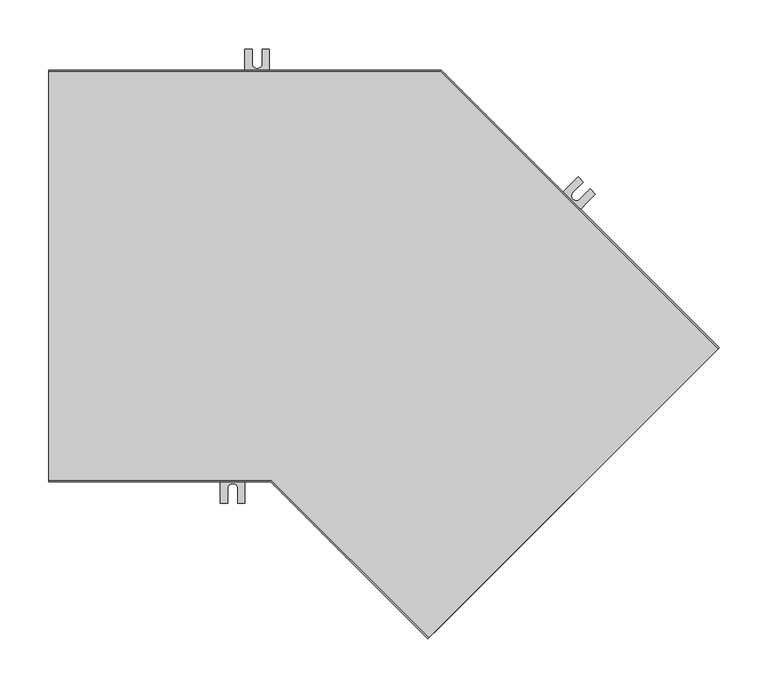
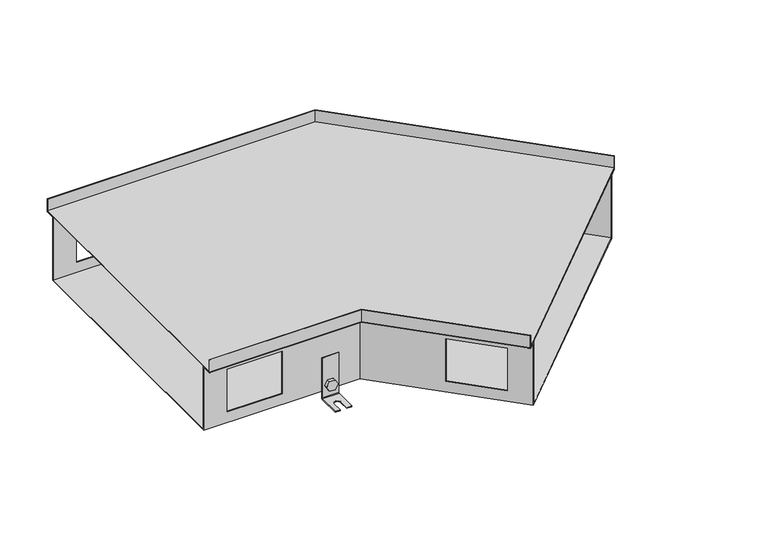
"""IFC4 building model written with IfcOpenShell, lengths in millimetres: proxy geometry, TECHNO_Угловой элемент_KVU : 420_120_135°."""

from ifc_helpers import new_model, si_unit, point, frame, frame_2d, origin, place, context, project, spatial, polyline, circle_curve, ellipse_curve, trimmed, segment, composite_curve, outline, extrude, source, transform, mapped, element, save
from ifc_brep_helpers import plane_surface, cylinder_surface, revolved_surface, advanced_brep


def mechanical_equipment_8565b647(model_context):
    return source(origin(), model_context, "Body", "SolidModel", [
        extrude(outline(composite_curve([segment(trimmed(circle_curve(frame_2d((0.0, -7.5)), 7.5), [point((0.0, -15.0))], [point((0.0, 0.0))], False, "CARTESIAN"), True, "CONTINUOUS"), segment(trimmed(circle_curve(frame_2d((0.0, -7.5)), 7.5), [point((0.0, 0.0))], [point((0.0, -15.0))], False, "CARTESIAN"), True, "CONTINUOUS")], self_intersect=False)), frame((475.0290547, -27.3050358, -110.5), z_axis=(0.7071067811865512, 0.7071067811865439, 0.0), x_axis=(0.0, 0.0, 1.0)), (0.0, 0.0, 1.0), 1.5),
        extrude(outline(polyline([(0.0, 0.0), (8.6602541, 0.0), (12.990381, -7.5), (8.660254, -15.0), (0.0, -15.0), (-4.330127, -7.5), (0.0, 0.0)])), frame((459.1472568, -20.3327833, -110.5), z_axis=(0.7071067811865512, 0.7071067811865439, 0.0), x_axis=(0.3535533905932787, -0.3535533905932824, -0.8660254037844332)), (0.0, 0.0, 1.0), 5.1),
        advanced_brep(
        [(477.7160605, -31.6890978, -65.5), (477.7160605, -31.6890978, -128.5), (477.1503751, -32.2547832, -129.3), (453.8158513, -55.589307, -129.3), (453.8158513, -55.589307, -130.5), (477.1503751, -32.2547832, -130.5), (478.5645886, -30.8405697, -128.5), (478.5645886, -30.8405697, -65.5), (460.038391, -14.0114283, -65.5), (460.8869191, -13.1629001, -65.5), (460.8869191, -13.1629001, -128.5), (459.4727056, -14.5771137, -130.5), (436.1381818, -37.9116375, -130.5), (436.1381818, -37.9116375, -129.3), (459.4727056, -14.5771137, -129.3), (460.038391, -14.0114283, -128.5), (441.4414826, -43.2149383, -129.3), (452.0480843, -32.6083366, -129.3), (459.1191522, -39.6794044, -129.3), (448.5125504, -50.2860062, -129.3), (448.5125504, -50.2860062, -130.5), (441.4414826, -43.2149383, -130.5), (459.1191522, -39.6794044, -130.5), (452.0480843, -32.6083366, -130.5)],
        [
            (0, 1),
            (1, 2, circle_curve(frame((477.1503751, -32.2547832, -128.5), z_axis=(-0.7071067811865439, 0.7071067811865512, 0.0), x_axis=(-0.7071067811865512, -0.7071067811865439, 0.0)), 0.8)),
            (2, 3),
            (3, 4),
            (4, 5),
            (5, 6, circle_curve(frame((477.1503751, -32.2547832, -128.5), z_axis=(0.7071067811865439, -0.7071067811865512, 0.0), x_axis=(-0.7071067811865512, -0.7071067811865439, 0.0)), 2.0)),
            (6, 7),
            (7, 0),
            (8, 9),
            (9, 10),
            (10, 11, circle_curve(frame((459.4727056, -14.5771137, -128.5), z_axis=(-0.7071067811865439, 0.7071067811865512, 0.0), x_axis=(-0.7071067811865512, -0.7071067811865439, 0.0)), 2.0)),
            (11, 12),
            (12, 13),
            (13, 14),
            (14, 15, circle_curve(frame((459.4727056, -14.5771137, -128.5), z_axis=(0.7071067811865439, -0.7071067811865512, 0.0), x_axis=(-0.7071067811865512, -0.7071067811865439, 0.0)), 0.8)),
            (15, 8),
            (0, 8),
            (15, 1),
            (14, 2),
            (13, 16),
            (16, 17),
            (17, 18, circle_curve(frame((455.5836183, -36.1438705, -129.3), z_axis=(0.0, 0.0, -1.0), x_axis=(0.7071067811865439, -0.7071067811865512, 0.0)), 5.0)),
            (18, 19),
            (19, 3),
            (19, 20),
            (20, 4),
            (12, 21),
            (21, 16),
            (20, 22),
            (22, 23, circle_curve(frame((455.5836183, -36.1438705, -130.5), z_axis=(0.0, 0.0, 1.0), x_axis=(0.7071067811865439, -0.7071067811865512, 0.0)), 5.0)),
            (23, 21),
            (11, 5),
            (10, 6),
            (9, 7),
            (23, 17),
            (18, 22),
        ],
        [
            plane_surface(frame((477.7160605, -31.6890978, -65.5), z_axis=(0.7071067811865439, -0.7071067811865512, 0.0), x_axis=(0.0, 0.0, -1.0))),
            plane_surface(frame((460.038391, -14.0114283, -65.5), z_axis=(-0.7071067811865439, 0.7071067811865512, 0.0), x_axis=(0.0, 0.0, 1.0))),
            plane_surface(frame((477.7160605, -31.6890978, -65.5), z_axis=(-0.7071067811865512, -0.7071067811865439, 0.0), x_axis=(-0.7071067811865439, 0.7071067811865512, 0.0))),
            revolved_surface(polyline([(458.9070201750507, -15.142799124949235, -128.5), (476.58468967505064, -32.82046862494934, -128.5)]), (459.4727056, -14.5771137, -128.5), (-0.7071067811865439, 0.7071067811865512, 0.0)),
            plane_surface(frame((477.1503751, -32.2547832, -129.3), z_axis=(0.0, 0.0, 1.0), x_axis=(-0.7071067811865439, 0.7071067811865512, 0.0))),
            plane_surface(frame((453.8158513, -55.589307, -129.3), z_axis=(-0.7071067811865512, -0.7071067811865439, 0.0), x_axis=(-0.7071067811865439, 0.7071067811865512, 0.0))),
            plane_surface(frame((453.8158513, -55.589307, -130.5), z_axis=(0.0, 0.0, -1.0), x_axis=(-0.7071067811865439, 0.7071067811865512, 0.0))),
            cylinder_surface(frame((459.4727056, -14.5771137, -128.5), z_axis=(0.7071067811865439, -0.7071067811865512, 0.0), x_axis=(-0.7071067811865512, -0.7071067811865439, 0.0)), 2.0),
            plane_surface(frame((478.5645886, -30.8405697, -128.5), z_axis=(0.7071067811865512, 0.7071067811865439, 0.0), x_axis=(-0.7071067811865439, 0.7071067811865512, 0.0))),
            plane_surface(frame((478.5645886, -30.8405697, -65.5), z_axis=(0.0, 0.0, 1.0), x_axis=(-0.7071067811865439, 0.7071067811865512, 0.0))),
            plane_surface(frame((452.0480843, -32.6083366, -129.3), z_axis=(0.7071067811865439, -0.7071067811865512, 0.0), x_axis=(0.0, 0.0, -1.0))),
            plane_surface(frame((448.5125504, -50.2860062, -129.3), z_axis=(-0.707106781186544, 0.7071067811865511, 0.0), x_axis=(0.0, 0.0, -1.0))),
            revolved_surface(polyline([(459.1191522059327, -39.67940440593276, -129.3), (459.1191522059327, -39.67940440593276, -130.5)]), (455.5836183, -36.1438705, -130.5), (0.0, 0.0, 1.0)),
        ],
        [
            (0, [[1, 2, 3, 4, 5, 6, 7, 8]]),
            (1, [[9, 10, 11, 12, 13, 14, 15, 16]]),
            (2, [[-1, 17, -16, 18]]),
            (3, [[-2, -18, -15, 19]]),
            (4, [[-3, -19, -14, 20, 21, 22, 23, 24]]),
            (5, [[-4, -24, 25, 26]]),
            (5, [[-13, 27, 28, -20]]),
            (6, [[-5, -26, 29, 30, 31, -27, -12, 32]]),
            (7, [[-6, -32, -11, 33]]),
            (8, [[-7, -33, -10, 34]]),
            (9, [[-8, -34, -9, -17]]),
            (10, [[35, -21, -28, -31]]),
            (11, [[36, -29, -25, -23]]),
            (12, [[-35, -30, -36, -22]]),
        ],
    ),
        extrude(outline(composite_curve([segment(trimmed(circle_curve(frame_2d((0.0, -7.5)), 7.5), [point((0.0, -15.0))], [point((0.0, 0.0))], False, "CARTESIAN"), True, "CONTINUOUS"), segment(trimmed(circle_curve(frame_2d((0.0, -7.5)), 7.5), [point((0.0, 0.0))], [point((0.0, -15.0))], False, "CARTESIAN"), True, "CONTINUOUS")], self_intersect=False)), frame((517.6675936, 71.9020456, -110.5), z_axis=(0.7071067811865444, 0.7071067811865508, 0.0), x_axis=(0.0, 0.0, -1.0)), (0.0, 0.0, 1.0), 1.5),
        extrude(outline(polyline([(0.0, 0.0), (4.330127, -7.5), (0.0, -15.0000001), (-8.660254, -15.0), (-12.9903811, -7.5000001), (-8.6602541, 0.0), (0.0, 0.0)])), frame((531.0038072, 62.3842087, -110.5), z_axis=(0.7071067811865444, 0.7071067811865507, 0.0), x_axis=(0.35355339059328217, -0.35355339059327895, 0.8660254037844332)), (0.0, 0.0, 1.0), 5.1),
        advanced_brep(
        [(516.041248, 77.3467678, -65.5), (516.041248, 77.3467678, -128.5), (516.6069335, 77.9124533, -129.3), (539.9414572, 101.2469771, -129.3), (539.9414572, 101.2469771, -130.5), (516.6069335, 77.9124533, -130.5), (515.1927199, 76.4982397, -128.5), (515.1927199, 76.4982397, -65.5), (533.7189176, 59.6690983, -65.5), (532.8703894, 58.8205702, -65.5), (532.8703894, 58.8205702, -128.5), (534.284603, 60.2347837, -130.5), (557.6191268, 83.5693075, -130.5), (557.6191268, 83.5693075, -129.3), (534.284603, 60.2347837, -129.3), (533.7189176, 59.6690983, -128.5), (552.3158259, 88.8726084, -129.3), (541.7092242, 78.2660067, -129.3), (534.6381564, 85.3370745, -129.3), (545.2447581, 95.9436762, -129.3), (545.2447581, 95.9436762, -130.5), (552.3158259, 88.8726084, -130.5), (534.6381564, 85.3370745, -130.5), (541.7092242, 78.2660067, -130.5)],
        [
            (0, 1),
            (1, 2, circle_curve(frame((516.6069335, 77.9124533, -128.5), z_axis=(0.7071067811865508, -0.7071067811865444, 0.0), x_axis=(0.7071067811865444, 0.7071067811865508, 0.0)), 0.8)),
            (2, 3),
            (3, 4),
            (4, 5),
            (5, 6, circle_curve(frame((516.6069335, 77.9124533, -128.5), z_axis=(-0.7071067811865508, 0.7071067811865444, 0.0), x_axis=(0.7071067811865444, 0.7071067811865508, 0.0)), 2.0)),
            (6, 7),
            (7, 0),
            (8, 9),
            (9, 10),
            (10, 11, circle_curve(frame((534.284603, 60.2347837, -128.5), z_axis=(0.7071067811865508, -0.7071067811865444, 0.0), x_axis=(0.7071067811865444, 0.7071067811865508, 0.0)), 2.0)),
            (11, 12),
            (12, 13),
            (13, 14),
            (14, 15, circle_curve(frame((534.284603, 60.2347837, -128.5), z_axis=(-0.7071067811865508, 0.7071067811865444, 0.0), x_axis=(0.7071067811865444, 0.7071067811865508, 0.0)), 0.8)),
            (15, 8),
            (0, 8),
            (15, 1),
            (14, 2),
            (13, 16),
            (16, 17),
            (17, 18, circle_curve(frame((538.1736903, 81.8015406, -129.3), z_axis=(0.0, 0.0, -1.0), x_axis=(-0.7071067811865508, 0.7071067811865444, 0.0)), 5.0)),
            (18, 19),
            (19, 3),
            (19, 20),
            (20, 4),
            (12, 21),
            (21, 16),
            (20, 22),
            (22, 23, circle_curve(frame((538.1736903, 81.8015406, -130.5), z_axis=(0.0, 0.0, 1.0), x_axis=(-0.7071067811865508, 0.7071067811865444, 0.0)), 5.0)),
            (23, 21),
            (11, 5),
            (10, 6),
            (9, 7),
            (23, 17),
            (18, 22),
        ],
        [
            plane_surface(frame((516.041248, 77.3467678, -65.5), z_axis=(-0.7071067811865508, 0.7071067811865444, 0.0), x_axis=(0.0, 0.0, -1.0))),
            plane_surface(frame((533.7189176, 59.6690983, -65.5), z_axis=(0.7071067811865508, -0.7071067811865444, 0.0), x_axis=(0.0, 0.0, 1.0))),
            plane_surface(frame((516.041248, 77.3467678, -65.5), z_axis=(0.7071067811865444, 0.7071067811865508, 0.0), x_axis=(0.7071067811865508, -0.7071067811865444, 0.0))),
            revolved_surface(polyline([(534.8502884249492, 60.800469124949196, -128.5), (517.1726188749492, 78.47813867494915, -128.5)]), (534.284603, 60.2347837, -128.5), (0.7071067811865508, -0.7071067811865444, 0.0)),
            plane_surface(frame((516.6069335, 77.9124533, -129.3), z_axis=(0.0, 0.0, 1.0000000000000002), x_axis=(0.7071067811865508, -0.7071067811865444, 0.0))),
            plane_surface(frame((539.9414572, 101.2469771, -129.3), z_axis=(0.7071067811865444, 0.7071067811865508, 0.0), x_axis=(0.7071067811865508, -0.7071067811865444, 0.0))),
            plane_surface(frame((539.9414572, 101.2469771, -130.5), z_axis=(0.0, 0.0, -1.0000000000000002), x_axis=(0.7071067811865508, -0.7071067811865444, 0.0))),
            cylinder_surface(frame((534.284603, 60.2347837, -128.5), z_axis=(-0.7071067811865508, 0.7071067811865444, 0.0), x_axis=(0.7071067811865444, 0.7071067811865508, 0.0)), 2.0),
            plane_surface(frame((515.1927199, 76.4982397, -128.5), z_axis=(-0.7071067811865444, -0.7071067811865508, 0.0), x_axis=(0.7071067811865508, -0.7071067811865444, 0.0))),
            plane_surface(frame((515.1927199, 76.4982397, -65.5), z_axis=(0.0, 0.0, 1.0000000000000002), x_axis=(0.7071067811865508, -0.7071067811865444, 0.0))),
            plane_surface(frame((541.7092242, 78.2660067, -129.3), z_axis=(-0.7071067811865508, 0.7071067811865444, 0.0), x_axis=(0.0, 0.0, -1.0))),
            plane_surface(frame((545.2447581, 95.9436762, -129.3), z_axis=(0.7071067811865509, -0.7071067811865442, 0.0), x_axis=(0.0, 0.0, -1.0))),
            revolved_surface(polyline([(534.6381563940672, 85.33707450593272, -129.3), (534.6381563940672, 85.33707450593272, -130.5)]), (538.1736903, 81.8015406, -130.5), (0.0, 0.0, 1.0)),
        ],
        [
            (0, [[1, 2, 3, 4, 5, 6, 7, 8]]),
            (1, [[9, 10, 11, 12, 13, 14, 15, 16]]),
            (2, [[-1, 17, -16, 18]]),
            (3, [[-2, -18, -15, 19]]),
            (4, [[-3, -19, -14, 20, 21, 22, 23, 24]]),
            (5, [[-4, -24, 25, 26]]),
            (5, [[-13, 27, 28, -20]]),
            (6, [[-5, -26, 29, 30, 31, -27, -12, 32]]),
            (7, [[-6, -32, -11, 33]]),
            (8, [[-7, -33, -10, 34]]),
            (9, [[-8, -34, -9, -17]]),
            (10, [[35, -21, -28, -31]]),
            (11, [[36, -29, -25, -23]]),
            (12, [[-35, -30, -36, -22]]),
        ],
    ),
        extrude(outline(composite_curve([segment(trimmed(circle_curve(frame_2d((-110.5, 212.5)), 7.5), [point((-110.5, 205.0))], [point((-110.5, 220.0))], False, "CARTESIAN"), True, "CONTINUOUS"), segment(trimmed(circle_curve(frame_2d((-110.5, 212.5)), 7.5), [point((-110.5, 220.0))], [point((-110.5, 205.0))], False, "CARTESIAN"), True, "CONTINUOUS")], self_intersect=False)), frame((0.0, 195.2, 0.0), z_axis=(0.0, 1.0, 0.0), x_axis=(0.0, 0.0, 1.0)), (0.0, 0.0, 1.0), 1.5),
        extrude(outline(polyline([(-110.5, 203.839746), (-118.0, 208.169873), (-118.0, 216.830127), (-110.5, 221.160254), (-103.0, 216.830127), (-103.0, 208.169873), (-110.5, 203.839746)])), frame((0.0, 197.9, 0.0), z_axis=(0.0, 1.0, 0.0), x_axis=(0.0, 0.0, 1.0)), (0.0, 0.0, 1.0), 5.1),
        advanced_brep(
        [(225.0, 197.9, -65.5), (225.0, 196.7, -65.5), (225.0, 196.7, -128.5), (225.0, 198.7, -130.5), (225.0, 231.7, -130.5), (225.0, 231.7, -129.3), (225.0, 198.7, -129.3), (225.0, 197.9, -128.5), (200.0, 197.9, -65.5), (200.0, 197.9, -128.5), (200.0, 198.7, -129.3), (200.0, 231.7, -129.3), (200.0, 231.7, -130.5), (200.0, 198.7, -130.5), (200.0, 196.7, -128.5), (200.0, 196.7, -65.5), (217.5, 231.7, -129.3), (217.5, 216.7, -129.3), (207.5, 216.7, -129.3), (207.5, 231.7, -129.3), (207.5, 231.7, -130.5), (217.5, 231.7, -130.5), (207.5, 216.7, -130.5), (217.5, 216.7, -130.5)],
        [
            (0, 1),
            (1, 2),
            (2, 3, circle_curve(frame((225.0, 198.7, -128.5), z_axis=(1.0, 0.0, 0.0), x_axis=(0.0, 1.0, 0.0)), 2.0)),
            (3, 4),
            (4, 5),
            (5, 6),
            (6, 7, circle_curve(frame((225.0, 198.7, -128.5), z_axis=(-1.0, 0.0, 0.0), x_axis=(0.0, 1.0, 0.0)), 0.8)),
            (7, 0),
            (8, 9),
            (9, 10, circle_curve(frame((200.0, 198.7, -128.5), z_axis=(1.0, 0.0, 0.0), x_axis=(0.0, 1.0, 0.0)), 0.8)),
            (10, 11),
            (11, 12),
            (12, 13),
            (13, 14, circle_curve(frame((200.0, 198.7, -128.5), z_axis=(-1.0, 0.0, 0.0), x_axis=(0.0, 1.0, 0.0)), 2.0)),
            (14, 15),
            (15, 8),
            (7, 9),
            (8, 0),
            (6, 10),
            (5, 16),
            (16, 17),
            (17, 18, circle_curve(frame((212.5, 216.7, -129.3), z_axis=(0.0, 0.0, -1.0), x_axis=(1.0, 0.0, 0.0)), 5.0)),
            (18, 19),
            (19, 11),
            (19, 20),
            (20, 12),
            (4, 21),
            (21, 16),
            (3, 13),
            (20, 22),
            (22, 23, circle_curve(frame((212.5, 216.7, -130.5), z_axis=(0.0, 0.0, 1.0), x_axis=(1.0, 0.0, 0.0)), 5.0)),
            (23, 21),
            (2, 14),
            (1, 15),
            (18, 22),
            (23, 17),
        ],
        [
            plane_surface(frame((225.0, 197.9, -65.5), z_axis=(1.0, 0.0, 0.0), x_axis=(0.0, 0.0, -1.0))),
            plane_surface(frame((200.0, 197.9, -65.5), z_axis=(-1.0, 0.0, 0.0), x_axis=(0.0, 0.0, 1.0))),
            plane_surface(frame((225.0, 197.9, -65.5), z_axis=(0.0, 1.0, 0.0), x_axis=(-1.0, 0.0, 0.0))),
            revolved_surface(polyline([(200.0, 199.5, -128.5), (225.0, 199.5, -128.5)]), (200.0, 198.7, -128.5), (-1.0, 0.0, 0.0)),
            plane_surface(frame((225.0, 198.7, -129.3), z_axis=(0.0, 0.0, 1.0), x_axis=(-1.0, 0.0, 0.0))),
            plane_surface(frame((225.0, 231.7, -129.3), z_axis=(0.0, 1.0, 0.0), x_axis=(-1.0, 0.0, 0.0))),
            plane_surface(frame((225.0, 231.7, -130.5), z_axis=(0.0, 0.0, -1.0), x_axis=(-1.0, 0.0, 0.0))),
            cylinder_surface(frame((200.0, 198.7, -128.5), z_axis=(1.0, 0.0, 0.0), x_axis=(0.0, 1.0, 0.0)), 2.0),
            plane_surface(frame((225.0, 196.7, -128.5), z_axis=(0.0, -1.0, 0.0), x_axis=(-1.0, 0.0, 0.0))),
            plane_surface(frame((225.0, 196.7, -65.5), z_axis=(0.0, 0.0, 1.0), x_axis=(-1.0, 0.0, 0.0))),
            plane_surface(frame((207.5, 216.7, -129.3), z_axis=(1.0, 0.0, 0.0), x_axis=(0.0, 0.0, -1.0))),
            plane_surface(frame((217.5, 231.7, -129.3), z_axis=(-1.0, 0.0, 0.0), x_axis=(0.0, 0.0, -1.0))),
            revolved_surface(polyline([(217.5, 216.7, -129.3), (217.5, 216.7, -130.5)]), (212.5, 216.7, -130.5), (0.0, 0.0, 1.0)),
        ],
        [
            (0, [[1, 2, 3, 4, 5, 6, 7, 8]]),
            (1, [[9, 10, 11, 12, 13, 14, 15, 16]]),
            (2, [[17, -9, 18, -8]]),
            (3, [[19, -10, -17, -7]]),
            (4, [[20, 21, 22, 23, 24, -11, -19, -6]]),
            (5, [[-24, 25, 26, -12]]),
            (5, [[27, 28, -20, -5]]),
            (6, [[29, -13, -26, 30, 31, 32, -27, -4]]),
            (7, [[33, -14, -29, -3]]),
            (8, [[34, -15, -33, -2]]),
            (9, [[-18, -16, -34, -1]]),
            (10, [[-30, -25, -23, 35]]),
            (11, [[-21, -28, -32, 36]]),
            (12, [[-22, -36, -31, -35]]),
        ],
    ),
        extrude(outline(composite_curve([segment(trimmed(circle_curve(frame_2d((-110.5, 187.5)), 7.5), [point((-110.5, 180.0))], [point((-110.5, 195.0))], False, "CARTESIAN"), True, "CONTINUOUS"), segment(trimmed(circle_curve(frame_2d((-110.5, 187.5)), 7.5), [point((-110.5, 195.0))], [point((-110.5, 180.0))], False, "CARTESIAN"), True, "CONTINUOUS")], self_intersect=False)), frame((0.0, -196.7, 0.0), z_axis=(0.0, 1.0, 0.0), x_axis=(0.0, 0.0, 1.0)), (0.0, 0.0, 1.0), 1.5),
        extrude(outline(polyline([(-110.5, 178.839746), (-118.0, 183.169873), (-118.0, 191.830127), (-110.5, 196.160254), (-103.0, 191.830127), (-103.0, 183.169873), (-110.5, 178.839746)])), frame((0.0, -203.0, 0.0), z_axis=(0.0, 1.0, 0.0), x_axis=(0.0, 0.0, 1.0)), (0.0, 0.0, 1.0), 5.1),
        advanced_brep(
        [(200.0, -197.9, -65.5), (200.0, -197.9, -128.5), (200.0, -198.7, -129.3), (200.0, -231.7, -129.3), (200.0, -231.7, -130.5), (200.0, -198.7, -130.5), (200.0, -196.7, -128.5), (200.0, -196.7, -65.5), (175.0, -197.9, -65.5), (175.0, -196.7, -65.5), (175.0, -196.7, -128.5), (175.0, -198.7, -130.5), (175.0, -231.7, -130.5), (175.0, -231.7, -129.3), (175.0, -198.7, -129.3), (175.0, -197.9, -128.5), (182.5, -231.7, -129.3), (182.5, -216.7, -129.3), (192.5, -216.7, -129.3), (192.5, -231.7, -129.3), (192.5, -231.7, -130.5), (182.5, -231.7, -130.5), (192.5, -216.7, -130.5), (182.5, -216.7, -130.5)],
        [
            (0, 1),
            (1, 2, circle_curve(frame((200.0, -198.7, -128.5), z_axis=(-1.0, 0.0, 0.0), x_axis=(0.0, -1.0, 0.0)), 0.8)),
            (2, 3),
            (3, 4),
            (4, 5),
            (5, 6, circle_curve(frame((200.0, -198.7, -128.5), z_axis=(1.0, 0.0, 0.0), x_axis=(0.0, -1.0, 0.0)), 2.0)),
            (6, 7),
            (7, 0),
            (8, 9),
            (9, 10),
            (10, 11, circle_curve(frame((175.0, -198.7, -128.5), z_axis=(-1.0, 0.0, 0.0), x_axis=(0.0, -1.0, 0.0)), 2.0)),
            (11, 12),
            (12, 13),
            (13, 14),
            (14, 15, circle_curve(frame((175.0, -198.7, -128.5), z_axis=(1.0, 0.0, 0.0), x_axis=(0.0, -1.0, 0.0)), 0.8)),
            (15, 8),
            (0, 8),
            (15, 1),
            (14, 2),
            (13, 16),
            (16, 17),
            (17, 18, circle_curve(frame((187.5, -216.7, -129.3), z_axis=(0.0, 0.0, -1.0), x_axis=(1.0, 0.0, 0.0)), 5.0)),
            (18, 19),
            (19, 3),
            (19, 20),
            (20, 4),
            (12, 21),
            (21, 16),
            (20, 22),
            (22, 23, circle_curve(frame((187.5, -216.7, -130.5), z_axis=(0.0, 0.0, 1.0), x_axis=(1.0, 0.0, 0.0)), 5.0)),
            (23, 21),
            (11, 5),
            (10, 6),
            (9, 7),
            (23, 17),
            (18, 22),
        ],
        [
            plane_surface(frame((200.0, -197.9, -65.5), z_axis=(1.0, 0.0, 0.0), x_axis=(0.0, 0.0, -1.0))),
            plane_surface(frame((175.0, -197.9, -65.5), z_axis=(-1.0, 0.0, 0.0), x_axis=(0.0, 0.0, 1.0))),
            plane_surface(frame((200.0, -197.9, -65.5), z_axis=(0.0, -1.0, 0.0), x_axis=(-1.0, 0.0, 0.0))),
            revolved_surface(polyline([(175.0, -199.5, -128.5), (200.0, -199.5, -128.5)]), (175.0, -198.7, -128.5), (-1.0, 0.0, 0.0)),
            plane_surface(frame((200.0, -198.7, -129.3), z_axis=(0.0, 0.0, 1.0), x_axis=(-1.0, 0.0, 0.0))),
            plane_surface(frame((200.0, -231.7, -129.3), z_axis=(0.0, -1.0, 0.0), x_axis=(-1.0, 0.0, 0.0))),
            plane_surface(frame((200.0, -231.7, -130.5), z_axis=(0.0, 0.0, -1.0), x_axis=(-1.0, 0.0, 0.0))),
            cylinder_surface(frame((175.0, -198.7, -128.5), z_axis=(1.0, 0.0, 0.0), x_axis=(0.0, -1.0, 0.0)), 2.0),
            plane_surface(frame((200.0, -196.7, -128.5), z_axis=(0.0, 1.0, 0.0), x_axis=(-1.0, 0.0, 0.0))),
            plane_surface(frame((200.0, -196.7, -65.5), z_axis=(0.0, 0.0, 1.0), x_axis=(-1.0, 0.0, 0.0))),
            plane_surface(frame((182.5, -216.7, -129.3), z_axis=(1.0, 0.0, 0.0), x_axis=(0.0, 0.0, -1.0))),
            plane_surface(frame((192.5, -231.7, -129.3), z_axis=(-1.0, 0.0, 0.0), x_axis=(0.0, 0.0, -1.0))),
            revolved_surface(polyline([(192.5, -216.7, -129.3), (192.5, -216.7, -130.5)]), (187.5, -216.7, -130.5), (0.0, 0.0, 1.0)),
        ],
        [
            (0, [[1, 2, 3, 4, 5, 6, 7, 8]]),
            (1, [[9, 10, 11, 12, 13, 14, 15, 16]]),
            (2, [[-1, 17, -16, 18]]),
            (3, [[-2, -18, -15, 19]]),
            (4, [[-3, -19, -14, 20, 21, 22, 23, 24]]),
            (5, [[-4, -24, 25, 26]]),
            (5, [[-13, 27, 28, -20]]),
            (6, [[-5, -26, 29, 30, 31, -27, -12, 32]]),
            (7, [[-6, -32, -11, 33]]),
            (8, [[-7, -33, -10, 34]]),
            (9, [[-8, -34, -9, -17]]),
            (10, [[35, -21, -28, -31]]),
            (11, [[36, -29, -25, -23]]),
            (12, [[-35, -30, -36, -22]]),
        ],
    ),
        extrude(outline(polyline([(682.8477377, -74.044794), (387.5599459, -369.3325858), (227.0273601, -208.8), (0.0, -208.8), (0.0, 208.8), (400.0029437, 208.8), (682.8477377, -74.044794)])), frame((0.0, 0.0, -19.3), z_axis=(0.0, 0.0, 1.0), x_axis=(1.0, 0.0, 0.0)), (0.0, 0.0, 1.0), 1.2),
        advanced_brep(
        [(386.7114178, -370.181114, -19.3), (387.5599459, -369.3325858, -20.5), (397.1765981, -359.7159336, -20.5), (397.1765981, -359.7159336, -120.0), (673.2310855, -83.6614462, -120.0), (673.2310855, -83.6614462, -20.5), (682.8477377, -74.044794, -20.5), (683.6962659, -73.1962659, -19.3), (683.6962659, -73.1962659, 0.0), (682.8477377, -74.044794, 0.0), (682.8477377, -74.044794, -19.3), (673.2310855, -83.6614462, -19.3), (672.3825574, -84.5099744, -20.5), (672.3825574, -84.5099744, -118.8), (398.0251263, -358.8674055, -118.8), (398.0251263, -358.8674055, -20.5), (397.1765981, -359.7159336, -19.3), (387.5599459, -369.3325858, -19.3), (387.5599459, -369.3325858, 0.0), (386.7114178, -370.181114, 0.0), (0.0, -210.0, -19.3), (0.0, -210.0, 0.0), (0.0, -208.8, 0.0), (0.0, -208.8, -19.3), (0.0, -195.2, -19.3), (0.0, -194.0, -20.5), (0.0, -194.0, -118.8), (0.0, 194.0, -118.8), (0.0, 194.0, -20.5), (0.0, 195.2, -19.3), (0.0, 208.8, -19.3), (0.0, 208.8, 0.0), (0.0, 210.0, 0.0), (0.0, 210.0, -19.3), (0.0, 208.8, -20.5), (0.0, 195.2, -20.5), (0.0, 195.2, -120.0), (0.0, -195.2, -120.0), (0.0, -195.2, -20.5), (0.0, -208.8, -20.5), (227.0273601, -208.8, -20.5), (226.5303038, -210.0, -19.3), (227.0273601, -208.8, 0.0), (227.0273601, -208.8, -19.3), (232.6606645, -195.2, -120.0), (232.6606645, -195.2, -20.5), (35.0, -195.2, -36.0), (117.0, -195.2, -36.0), (117.0, -195.2, -103.0), (35.0, -195.2, -103.0), (233.1577208, -194.0, -20.5), (233.1577208, -194.0, -118.8), (117.0, -194.0, -36.0), (35.0, -194.0, -36.0), (35.0, -194.0, -103.0), (117.0, -194.0, -103.0), (232.6606645, -195.2, -19.3), (314.4451047, -276.9844402, -36.0), (372.4278608, -334.9671963, -36.0), (372.4278608, -334.9671963, -103.0), (314.4451047, -276.9844402, -103.0), (394.3696393, 195.2, -120.0), (393.872583, 194.0, -118.8), (373.2763889, -334.1186681, -36.0), (315.2936329, -276.1359121, -36.0), (315.2936329, -276.1359121, -103.0), (373.2763889, -334.1186681, -103.0), (226.5303038, -210.0, 0.0), (394.3696393, 195.2, -20.5), (648.4823482, -58.9127089, -36.0), (590.4995921, -0.9299528, -36.0), (590.4995921, -0.9299528, -103.0), (648.4823482, -58.9127089, -103.0), (400.0029437, 208.8, -20.5), (400.5, 210.0, -19.3), (400.5, 210.0, 0.0), (400.0029437, 208.8, 0.0), (400.0029437, 208.8, -19.3), (394.3696393, 195.2, -19.3), (393.872583, 194.0, -20.5), (589.651064, -1.778481, -36.0), (647.63382, -59.761237, -36.0), (647.63382, -59.761237, -103.0), (589.651064, -1.778481, -103.0), (117.0, 195.2, -36.0), (35.0, 195.2, -36.0), (35.0, 195.2, -103.0), (117.0, 195.2, -103.0), (35.0, 194.0, -36.0), (117.0, 194.0, -36.0), (117.0, 194.0, -103.0), (35.0, 194.0, -103.0)],
        [
            (0, 1, circle_curve(frame((387.5599459, -369.3325858, -19.3), z_axis=(0.707106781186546, -0.707106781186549, 0.0), x_axis=(-0.707106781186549, -0.707106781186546, 0.0)), 1.2)),
            (1, 2),
            (2, 3),
            (3, 4),
            (4, 5),
            (5, 6),
            (6, 7, circle_curve(frame((682.8477377, -74.044794, -19.3), z_axis=(0.707106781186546, -0.707106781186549, 0.0), x_axis=(-0.707106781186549, -0.707106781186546, 0.0)), 1.2)),
            (7, 8),
            (8, 9),
            (9, 10),
            (10, 11),
            (11, 12, circle_curve(frame((673.2310855, -83.6614462, -20.5), z_axis=(0.707106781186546, -0.707106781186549, 0.0), x_axis=(-0.707106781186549, -0.707106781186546, 0.0)), 1.2)),
            (12, 13),
            (13, 14),
            (14, 15),
            (15, 16, circle_curve(frame((397.1765981, -359.7159336, -20.5), z_axis=(0.707106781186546, -0.707106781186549, 0.0), x_axis=(-0.707106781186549, -0.707106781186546, 0.0)), 1.2)),
            (16, 17),
            (17, 18),
            (18, 19),
            (19, 0),
            (20, 21),
            (21, 22),
            (22, 23),
            (23, 24),
            (24, 25, circle_curve(frame((0.0, -195.2, -20.5), z_axis=(-1.0, 0.0, 0.0), x_axis=(0.0, -1.0, 0.0)), 1.2)),
            (25, 26),
            (26, 27),
            (27, 28),
            (28, 29, circle_curve(frame((0.0, 195.2, -20.5), z_axis=(-1.0, 0.0, 0.0), x_axis=(0.0, -1.0, 0.0)), 1.2)),
            (29, 30),
            (30, 31),
            (31, 32),
            (32, 33),
            (33, 34, circle_curve(frame((0.0, 208.8, -19.3), z_axis=(-1.0, 0.0, 0.0), x_axis=(0.0, -1.0, 0.0)), 1.2)),
            (34, 35),
            (35, 36),
            (36, 37),
            (37, 38),
            (38, 39),
            (39, 20, circle_curve(frame((0.0, -208.8, -19.3), z_axis=(-1.0, 0.0, 0.0), x_axis=(0.0, -1.0, 0.0)), 1.2)),
            (39, 40),
            (40, 41, ellipse_curve(frame((227.0273601, -208.8, -19.3), z_axis=(-0.9238795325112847, 0.3826834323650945, 0.0), x_axis=(0.3826834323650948, 0.9238795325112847, 0.0)), 1.2988706, 1.2)),
            (41, 20),
            (22, 42),
            (42, 43),
            (43, 23),
            (37, 44),
            (44, 45),
            (45, 38),
            (46, 47),
            (47, 48),
            (48, 49),
            (49, 46),
            (25, 50),
            (50, 51),
            (51, 26),
            (52, 53),
            (53, 54),
            (54, 55),
            (55, 52),
            (24, 56),
            (56, 50, ellipse_curve(frame((232.6606645, -195.2, -20.5), z_axis=(-0.9238795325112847, 0.3826834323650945, 0.0), x_axis=(0.3826834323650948, 0.9238795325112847, 0.0)), 1.2988706, 1.2)),
            (0, 41),
            (40, 1),
            (45, 2),
            (44, 3),
            (57, 58),
            (58, 59),
            (59, 60),
            (60, 57),
            (36, 61),
            (61, 4),
            (13, 62),
            (62, 27),
            (51, 14),
            (50, 15),
            (63, 64),
            (64, 65),
            (65, 66),
            (66, 63),
            (56, 16),
            (43, 17),
            (42, 18),
            (21, 67),
            (67, 19),
            (61, 68),
            (68, 5),
            (69, 70),
            (70, 71),
            (71, 72),
            (72, 69),
            (68, 35),
            (34, 73),
            (73, 6),
            (73, 74, ellipse_curve(frame((400.0029437, 208.8, -19.3), z_axis=(0.9238795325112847, -0.3826834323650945, 0.0), x_axis=(-0.38268343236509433, -0.9238795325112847, 0.0)), 1.2988706, 1.2)),
            (74, 7),
            (74, 75),
            (75, 8),
            (75, 32),
            (31, 76),
            (76, 9),
            (76, 77),
            (77, 10),
            (77, 30),
            (29, 78),
            (78, 11),
            (78, 79, ellipse_curve(frame((394.3696393, 195.2, -20.5), z_axis=(0.9238795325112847, -0.3826834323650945, 0.0), x_axis=(-0.38268343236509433, -0.9238795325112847, 0.0)), 1.2988706, 1.2)),
            (79, 12),
            (79, 62),
            (80, 81),
            (81, 82),
            (82, 83),
            (83, 80),
            (84, 85),
            (85, 86),
            (86, 87),
            (87, 84),
            (33, 74),
            (28, 79),
            (88, 89),
            (89, 90),
            (90, 91),
            (91, 88),
            (41, 67),
            (46, 53),
            (52, 47),
            (88, 85),
            (84, 89),
            (49, 54),
            (91, 86),
            (48, 55),
            (90, 87),
            (57, 64),
            (63, 58),
            (80, 70),
            (69, 81),
            (66, 59),
            (72, 82),
            (65, 60),
            (71, 83),
        ],
        [
            plane_surface(frame((535.2038418, -221.6886899, 0.0), z_axis=(0.707106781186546, -0.707106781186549, 0.0), x_axis=(0.0, 0.0, 1.0))),
            plane_surface(frame((0.0, 0.0, 0.0), z_axis=(-1.0, 0.0, 0.0), x_axis=(0.0, 0.0, 1.0))),
            cylinder_surface(frame((313.5151519, -208.8, -19.3), z_axis=(1.0, 0.0, 0.0), x_axis=(0.0, -1.0, 0.0)), 1.2),
            plane_surface(frame((227.0273601, -208.8, -19.3), z_axis=(0.0, 1.0, 0.0), x_axis=(-1.0, 0.0, 0.0))),
            plane_surface(frame((232.6606645, -195.2, -20.5), z_axis=(0.0, -1.0, 0.0), x_axis=(-1.0, 0.0, 0.0))),
            plane_surface(frame((233.1577208, -194.0, -118.8), z_axis=(0.0, 1.0, 0.0), x_axis=(-1.0, 0.0, 0.0))),
            cylinder_surface(frame((313.5151519, -195.2, -20.5), z_axis=(1.0, 0.0, 0.0), x_axis=(0.0, -1.0, 0.0)), 1.2),
            cylinder_surface(frame((387.5599459, -369.3325858, -19.3), z_axis=(0.707106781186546, -0.707106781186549, 0.0), x_axis=(-0.707106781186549, -0.707106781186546, 0.0)), 1.2),
            plane_surface(frame((387.5599459, -369.3325858, -20.5), z_axis=(0.0, 0.0, -1.0), x_axis=(-0.707106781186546, 0.7071067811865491, 0.0))),
            plane_surface(frame((397.1765981, -359.7159336, -20.5), z_axis=(-0.7071067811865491, -0.7071067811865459, 0.0), x_axis=(-0.7071067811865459, 0.7071067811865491, 0.0))),
            plane_surface(frame((397.1765981, -359.7159336, -120.0), z_axis=(0.0, 0.0, -1.0), x_axis=(-0.7071067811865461, 0.707106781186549, 0.0))),
            plane_surface(frame((672.3825574, -84.5099744, -118.8), z_axis=(0.0, 0.0, 1.0), x_axis=(-0.707106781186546, 0.707106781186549, 0.0))),
            plane_surface(frame((398.0251263, -358.8674055, -118.8), z_axis=(0.707106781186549, 0.707106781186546, 0.0), x_axis=(-0.707106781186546, 0.707106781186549, 0.0))),
            cylinder_surface(frame((397.1765981, -359.7159336, -20.5), z_axis=(0.707106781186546, -0.707106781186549, 0.0), x_axis=(-0.707106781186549, -0.707106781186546, 0.0)), 1.2),
            plane_surface(frame((397.1765981, -359.7159336, -19.3), z_axis=(0.0, 0.0, 1.0), x_axis=(-0.7071067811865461, 0.707106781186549, 0.0))),
            plane_surface(frame((387.5599459, -369.3325858, -19.3), z_axis=(0.7071067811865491, 0.7071067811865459, 0.0), x_axis=(-0.7071067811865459, 0.7071067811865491, 0.0))),
            plane_surface(frame((387.5599459, -369.3325858, 0.0), z_axis=(0.0, 0.0, 1.0), x_axis=(-0.7071067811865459, 0.7071067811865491, 0.0))),
            plane_surface(frame((673.2310855, -83.6614462, -120.0), z_axis=(0.707106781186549, 0.707106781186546, 0.0), x_axis=(-0.707106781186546, 0.707106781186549, 0.0))),
            plane_surface(frame((673.2310855, -83.6614462, -20.5), z_axis=(0.0, 0.0, -1.0), x_axis=(-0.707106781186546, 0.7071067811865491, 0.0))),
            cylinder_surface(frame((682.8477377, -74.044794, -19.3), z_axis=(0.707106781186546, -0.707106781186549, 0.0), x_axis=(-0.707106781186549, -0.707106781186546, 0.0)), 1.2),
            plane_surface(frame((683.6962659, -73.1962659, -19.3), z_axis=(0.707106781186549, 0.707106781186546, 0.0), x_axis=(-0.707106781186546, 0.707106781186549, 0.0))),
            plane_surface(frame((683.6962659, -73.1962659, 0.0), z_axis=(0.0, 0.0, 1.0), x_axis=(-0.707106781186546, 0.707106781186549, 0.0))),
            plane_surface(frame((682.8477377, -74.044794, 0.0), z_axis=(-0.707106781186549, -0.7071067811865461, 0.0), x_axis=(-0.7071067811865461, 0.707106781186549, 0.0))),
            plane_surface(frame((682.8477377, -74.044794, -19.3), z_axis=(0.0, 0.0, 1.0), x_axis=(-0.7071067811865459, 0.7071067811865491, 0.0))),
            cylinder_surface(frame((673.2310855, -83.6614462, -20.5), z_axis=(0.707106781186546, -0.707106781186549, 0.0), x_axis=(-0.707106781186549, -0.707106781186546, 0.0)), 1.2),
            plane_surface(frame((672.3825574, -84.5099744, -20.5), z_axis=(-0.707106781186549, -0.707106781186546, 0.0), x_axis=(-0.707106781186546, 0.707106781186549, 0.0))),
            plane_surface(frame((394.3696393, 195.2, -120.0), z_axis=(0.0, 1.0, 0.0), x_axis=(-1.0, 0.0, 0.0))),
            cylinder_surface(frame((313.5151519, 208.8, -19.3), z_axis=(1.0, 0.0, 0.0), x_axis=(0.0, -1.0, 0.0)), 1.2),
            plane_surface(frame((400.5, 210.0, -19.3), z_axis=(0.0, 1.0, 0.0), x_axis=(-1.0, 0.0, 0.0))),
            plane_surface(frame((400.0029437, 208.8, 0.0), z_axis=(0.0, -1.0, 0.0), x_axis=(-1.0, 0.0, 0.0))),
            cylinder_surface(frame((313.5151519, 195.2, -20.5), z_axis=(1.0, 0.0, 0.0), x_axis=(0.0, -1.0, 0.0)), 1.2),
            plane_surface(frame((393.872583, 194.0, -20.5), z_axis=(0.0, -1.0, 0.0), x_axis=(-1.0, 0.0, 0.0))),
            plane_surface(frame((226.5303038, -210.0, 0.0), z_axis=(0.0, -1.0, 0.0), x_axis=(-1.0, 0.0, 0.0))),
            plane_surface(frame((386.7114178, -370.181114, 0.0), z_axis=(-0.707106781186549, -0.707106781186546, 0.0), x_axis=(-0.707106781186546, 0.707106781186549, 0.0))),
            plane_surface(frame((35.0, 210.0, -36.0), z_axis=(0.0, 0.0, -1.0), x_axis=(0.0, -1.0, 0.0))),
            plane_surface(frame((35.0, 210.0, -103.0), z_axis=(1.0, 0.0, 0.0), x_axis=(0.0, -1.0, 0.0))),
            plane_surface(frame((117.0, 210.0, -103.0), z_axis=(0.0, 0.0, 1.0), x_axis=(0.0, -1.0, 0.0))),
            plane_surface(frame((117.0, 210.0, -36.0), z_axis=(-1.0, 0.0, 0.0), x_axis=(0.0, -1.0, 0.0))),
            plane_surface(frame((600.9647725, 9.5352275, -36.0), z_axis=(0.0, 0.0, -1.0), x_axis=(-0.7071067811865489, -0.7071067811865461, 0.0))),
            plane_surface(frame((658.9475285, -48.4475285, -36.0), z_axis=(-0.7071067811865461, 0.7071067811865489, 0.0), x_axis=(-0.7071067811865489, -0.7071067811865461, 0.0))),
            plane_surface(frame((658.9475285, -48.4475285, -103.0), z_axis=(0.0, 0.0, 1.0), x_axis=(-0.7071067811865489, -0.7071067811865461, 0.0))),
            plane_surface(frame((600.9647725, 9.5352275, -103.0), z_axis=(0.7071067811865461, -0.7071067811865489, 0.0), x_axis=(-0.7071067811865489, -0.7071067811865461, 0.0))),
        ],
        [
            (0, [[1, 2, 3, 4, 5, 6, 7, 8, 9, 10, 11, 12, 13, 14, 15, 16, 17, 18, 19, 20]]),
            (1, [[21, 22, 23, 24, 25, 26, 27, 28, 29, 30, 31, 32, 33, 34, 35, 36, 37, 38, 39, 40]]),
            (2, [[-40, 41, 42, 43]]),
            (3, [[-23, 44, 45, 46]]),
            (4, [[-38, 47, 48, 49], [50, 51, 52, 53]]),
            (5, [[-26, 54, 55, 56], [57, 58, 59, 60]]),
            (6, [[-25, 61, 62, -54]]),
            (7, [[-1, 63, -42, 64]]),
            (8, [[-2, -64, -41, -39, -49, 65]]),
            (9, [[-3, -65, -48, 66], [67, 68, 69, 70]]),
            (10, [[-4, -66, -47, -37, 71, 72]]),
            (11, [[-14, 73, 74, -27, -56, 75]]),
            (12, [[-15, -75, -55, 76], [77, 78, 79, 80]]),
            (13, [[-16, -76, -62, 81]]),
            (14, [[-17, -81, -61, -24, -46, 82]]),
            (15, [[-18, -82, -45, 83]]),
            (16, [[-19, -83, -44, -22, 84, 85]]),
            (17, [[-5, -72, 86, 87], [88, 89, 90, 91]]),
            (18, [[-6, -87, 92, -35, 93, 94]]),
            (19, [[-7, -94, 95, 96]]),
            (20, [[-8, -96, 97, 98]]),
            (21, [[-9, -98, 99, -32, 100, 101]]),
            (22, [[-10, -101, 102, 103]]),
            (23, [[-11, -103, 104, -30, 105, 106]]),
            (24, [[-12, -106, 107, 108]]),
            (25, [[-13, -108, 109, -73], [110, 111, 112, 113]]),
            (26, [[-36, -92, -86, -71], [114, 115, 116, 117]]),
            (27, [[-34, 118, -95, -93]]),
            (28, [[-33, -99, -97, -118]]),
            (29, [[-31, -104, -102, -100]]),
            (30, [[-29, 119, -107, -105]]),
            (31, [[-28, -74, -109, -119], [120, 121, 122, 123]]),
            (32, [[-21, -43, 124, -84]]),
            (33, [[-20, -85, -124, -63]]),
            (34, [[125, -57, 126, -50]]),
            (34, [[127, -114, 128, -120]]),
            (35, [[-125, -53, 129, -58]]),
            (35, [[-127, -123, 130, -115]]),
            (36, [[-129, -52, 131, -59]]),
            (36, [[-130, -122, 132, -116]]),
            (37, [[-131, -51, -126, -60]]),
            (37, [[-132, -121, -128, -117]]),
            (38, [[133, -77, 134, -67]]),
            (38, [[135, -88, 136, -110]]),
            (39, [[-134, -80, 137, -68]]),
            (39, [[-136, -91, 138, -111]]),
            (40, [[-137, -79, 139, -69]]),
            (40, [[-138, -90, 140, -112]]),
            (41, [[-133, -70, -139, -78]]),
            (41, [[-135, -113, -140, -89]]),
        ],
    ),
    ])


if __name__ == "__main__":
    model = new_model("IFC4")
    model_context = context("Model", 3, world=origin())
    ifc_project = project(units=[si_unit("LENGTHUNIT", "METRE", prefix="MILLI")], contexts=[model_context])
    site = spatial("IfcSite", under=ifc_project)
    building = spatial("IfcBuilding", under=site)
    placement = place(None, origin())
    mechanical_equipment_shape = mechanical_equipment_8565b647(model_context)
    element("IfcBuildingElementProxy", 1, Name="TECHNO_Угловой элемент_KVU : 420_120_135°", ObjectType="TECHNO_Угловой элемент_KVU : 420_120_135°", at=placement, inside=building, context=model_context, shape_type="MappedRepresentation", body=[
        mapped(mechanical_equipment_shape, transform((0.0, 0.0, 0.0), x_axis=(1.0, 0.0, 0.0), y_axis=(0.0, 1.0, 0.0), z_axis=(0.0, 0.0, 1.0))),
    ])
    save(model, "model.ifc")
